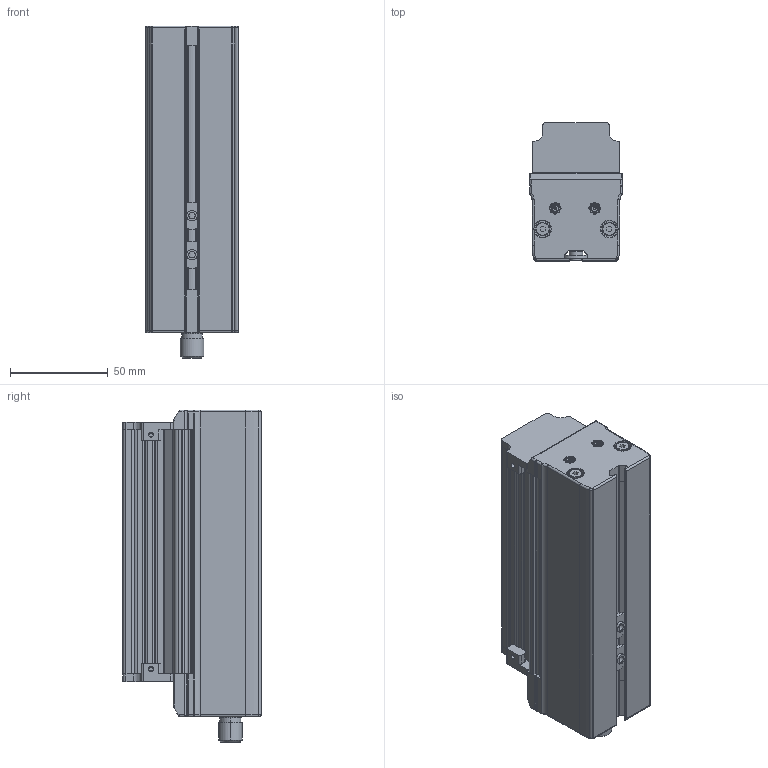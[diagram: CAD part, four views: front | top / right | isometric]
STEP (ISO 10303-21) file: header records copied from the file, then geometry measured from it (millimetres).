
FILE_DESCRIPTION (( 'STEP AP214' ), '1' );
FILE_NAME ('ELINE-EC-125-xxx-xx_CLIENT.STEP', '2026-06-08T12:05:16', ( '' ), ( '' ), 'SwSTEP 2.0', 'SolidWorks 2025', '' );
FILE_SCHEMA (( 'AUTOMOTIVE_DESIGN' ));
Length unit declared in the file: millimetre
Products named in the file (3): 1-X2014-01-3-A_1; ELINE-EC-125-xxx-xx_CLIENT; ELINE-EC-xxx-xxx-xx_CLIENT_125
Assembly tree (3 placements, depth 2):
  ELINE-EC-125-xxx-xx_CLIENT
    ELINE-EC-xxx-xxx-xx_CLIENT_125
    1-X2014-01-3-A_1  x2
Bounding box: 47.7 x 70.9 x 170.05 mm (x, y, z)
Volume: 426940.8 mm3; surface area: 50142.5 mm2
Topology: 3 solids, 3 shells, 926 faces, 2415 edges, 1559 vertices
Faces by surface type: plane 430, cylinder 274, bspline 140, torus 64, cone 14, sphere 4
Entity records: 32594 total; most frequent: CARTESIAN_POINT 10869, ORIENTED_EDGE 4684, DIRECTION 4132, EDGE_CURVE 2342, VERTEX_POINT 1518, AXIS2_PLACEMENT_3D 1408, VECTOR 1316, LINE 1316
